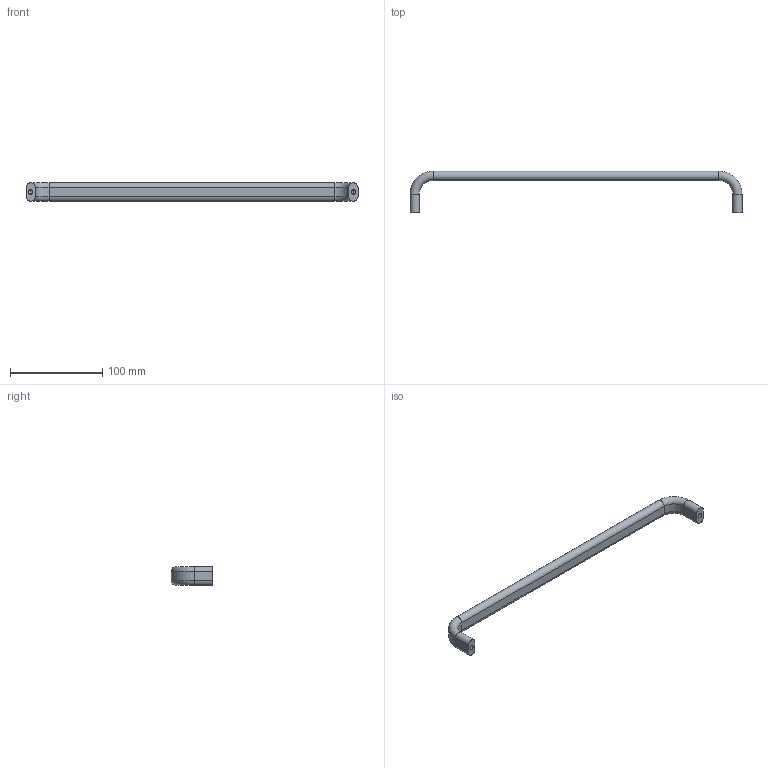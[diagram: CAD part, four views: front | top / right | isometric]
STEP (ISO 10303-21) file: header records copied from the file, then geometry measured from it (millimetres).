
FILE_DESCRIPTION (( 'STEP AP203' ), '1' );
FILE_NAME ('7803.W350-1.step', '2010-02-11T18:09:18', ( 'Wixroyd' ), ( 'Wixroyd' ), 'SwSTEP 2.0', 'SolidWorks 2009', '' );
FILE_SCHEMA (( 'CONFIG_CONTROL_DESIGN' ));
Length unit declared in the file: millimetre
Products named in the file (1): 7803.W350-1
Bounding box: 360 x 45 x 20 mm (x, y, z)
Volume: 73233.8 mm3; surface area: 21967.6 mm2
Topology: 1 solids, 1 shells, 36 faces, 76 edges, 42 vertices
Faces by surface type: cylinder 18, plane 10, cone 4, torus 4
Entity records: 1005 total; most frequent: DIRECTION 182, CARTESIAN_POINT 151, ORIENTED_EDGE 144, AXIS2_PLACEMENT_3D 73, EDGE_CURVE 72, VERTEX_POINT 42, EDGE_LOOP 40, ADVANCED_FACE 36
